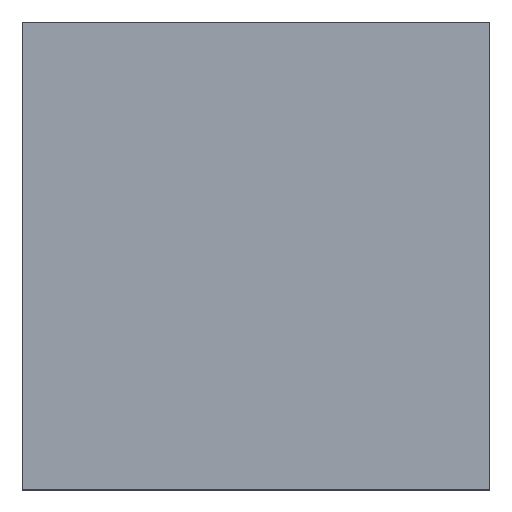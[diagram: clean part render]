
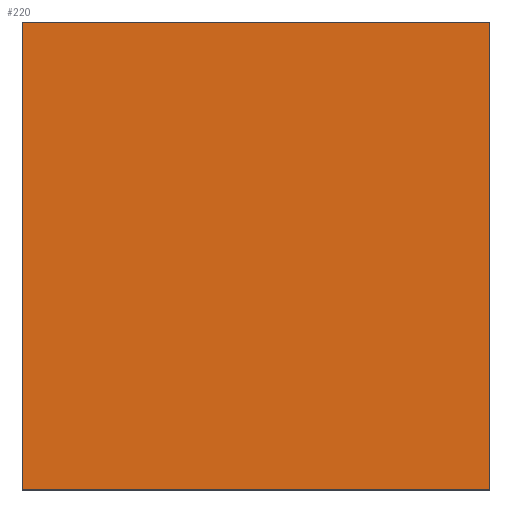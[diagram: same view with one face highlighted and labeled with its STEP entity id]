
A CAD part, top view. The second image highlights one B-rep face of the part: STEP entity #220.
In plain terms, the highlighted free-form (B-spline) face has degree [3, 3] with [4, 4] control points.
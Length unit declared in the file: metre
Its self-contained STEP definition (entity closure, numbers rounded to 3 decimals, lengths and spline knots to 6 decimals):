
#11 = CARTESIAN_POINT('',(0.,1.,1.));
#12 = VERTEX_POINT('vertex',#11);
#19 = CARTESIAN_POINT('',(0.,0.,1.));
#20 = VERTEX_POINT('vertex',#19);
#21 = CARTESIAN_POINT(' ',(0.,0.,1.));
#22 = DIRECTION(' ',(0.,1.,0.));
#23 = VECTOR(' ',#22,1.);
#24 = LINE('NONE',#21,#23);
#25 = EDGE_CURVE('edge_curve',#20,#12,#24,.T.);
#63 = CARTESIAN_POINT('',(1.,1.,1.));
#64 = VERTEX_POINT('vertex',#63);
#71 = CARTESIAN_POINT('',(1.,0.,1.));
#72 = VERTEX_POINT('vertex',#71);
#73 = CARTESIAN_POINT(' ',(1.,0.,1.));
#74 = DIRECTION(' ',(0.,1.,0.));
#75 = VECTOR(' ',#74,1.);
#76 = LINE('NONE',#73,#75);
#77 = EDGE_CURVE('edge_curve',#72,#64,#76,.T.);
#106 = CARTESIAN_POINT(' ',(0.,0.,1.));
#107 = DIRECTION(' ',(1.,0.,0.));
#108 = VECTOR(' ',#107,1.);
#109 = LINE('NONE',#106,#108);
#110 = EDGE_CURVE('edge_curve',#20,#72,#109,.T.);
#140 = CARTESIAN_POINT(' ',(0.,1.,1.));
#141 = DIRECTION(' ',(1.,0.,0.));
#142 = VECTOR(' ',#141,1.);
#143 = LINE('NONE',#140,#142);
#144 = EDGE_CURVE('edge_curve',#12,#64,#143,.T.);
#197 = ORIENTED_EDGE('Oriented edge',*,*,#110,.T.);
#198 = ORIENTED_EDGE('Oriented edge',*,*,#77,.T.);
#199 = ORIENTED_EDGE('Oriented edge',*,*,#144,.F.);
#200 = ORIENTED_EDGE('Oriented edge',*,*,#25,.F.);
#201 = EDGE_LOOP('edge_loop',(#197,#198,#199,#200));
#202 = FACE_BOUND('face bound',#201,.T.);
#203 = CARTESIAN_POINT('',(0.,0.,1.));
#204 = CARTESIAN_POINT('',(0.,0.333333,1.));
#205 = CARTESIAN_POINT('',(0.,0.666667,1.));
#206 = CARTESIAN_POINT('',(0.,1.,1.));
#207 = CARTESIAN_POINT('',(0.333333,0.,1.));
#208 = CARTESIAN_POINT('',(0.333333,0.333333,1.));
#209 = CARTESIAN_POINT('',(0.333333,0.666667,1.));
#210 = CARTESIAN_POINT('',(0.333333,1.,1.));
#211 = CARTESIAN_POINT('',(0.666667,0.,1.));
#212 = CARTESIAN_POINT('',(0.666667,0.333333,1.));
#213 = CARTESIAN_POINT('',(0.666667,0.666667,1.));
#214 = CARTESIAN_POINT('',(0.666667,1.,1.));
#215 = CARTESIAN_POINT('',(1.,0.,1.));
#216 = CARTESIAN_POINT('',(1.,0.333333,1.));
#217 = CARTESIAN_POINT('',(1.,0.666667,1.));
#218 = CARTESIAN_POINT('',(1.,1.,1.));
#219 = B_SPLINE_SURFACE_WITH_KNOTS('NONE',3,3,((#203,#204,#205,#206),(#207,#208
,#209,#210),(#211,#212,#213,#214),(#215,#216,#217,#218)),.UNSPECIFIED.,.F.,.F.,
.F.,(4,4),(4,4),(0.,1.),(0.,1.),.UNSPECIFIED.);
#220 = ADVANCED_FACE('*ADF',(#202),#219,.T.);
